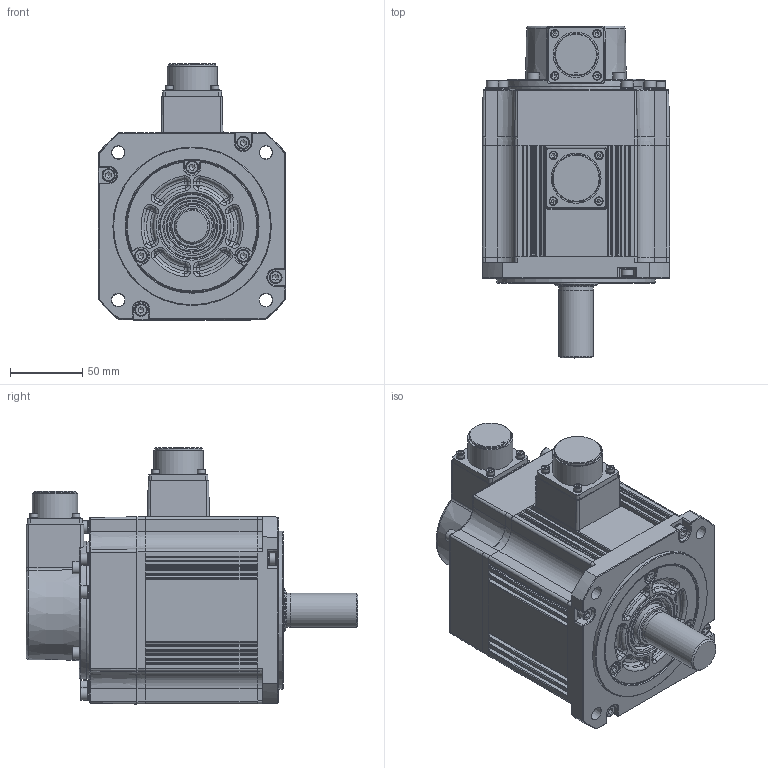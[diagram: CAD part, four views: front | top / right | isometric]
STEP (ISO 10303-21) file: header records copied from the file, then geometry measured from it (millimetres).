
FILE_DESCRIPTION((''),'2;1');
FILE_NAME('C:\Documents and Settings\11644\桌面\SME-M150B.stp','2016-07-15T20:04:37',('11644'),(''),'Autodesk Inventor 2008','Autodesk Inventor 2008','');
FILE_SCHEMA(('AUTOMOTIVE_DESIGN { 1 0 10303 214 1 1 1 1 }'));
Length unit declared in the file: millimetre
Products named in the file (2): SME-M150B; SME-M150B_69
Assembly tree (1 placements, depth 2):
  SME-M150B
    SME-M150B_69
Bounding box: 130.1 x 230.4 x 177.8 mm (x, y, z)
Volume: 2314104.7 mm3; surface area: 153608 mm2
Topology: 1 solids, 1 shells, 1071 faces, 2642 edges, 1641 vertices
Faces by surface type: plane 486, cylinder 309, torus 118, cone 84, bspline 66, sphere 8
Full cylindrical faces by diameter (mm): 5.5 x8, 5.82 x8, 8.5 x18, 8.97 x14, 23.8 x1, 24 x1, 29.5 x1, 30 x1, 31.5 x1, 33 x1, 34.7 x1, 35.319 x1, 40.504 x1, 45 x1, 92 x1, 95.8 x1, 110 x1
Entity records: 33950 total; most frequent: CARTESIAN_POINT 8839, DIRECTION 5009, ORIENTED_EDGE 4750, EDGE_CURVE 2375, AXIS2_PLACEMENT_3D 1898, VERTEX_POINT 1556, EDGE_LOOP 1329, VECTOR 1213
